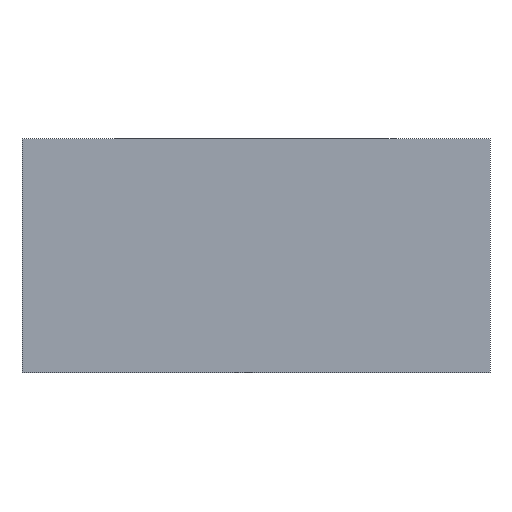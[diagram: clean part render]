
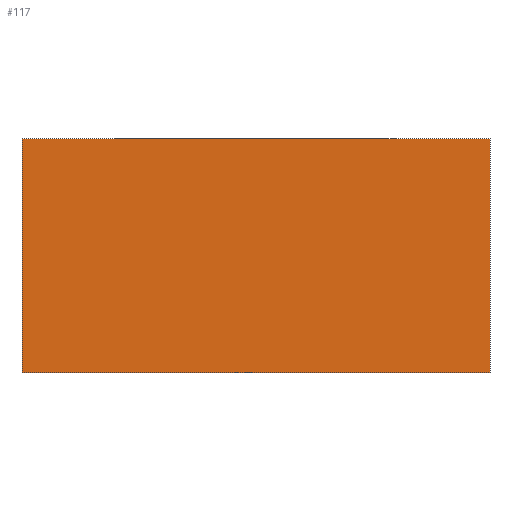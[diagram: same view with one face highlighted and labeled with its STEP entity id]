
A CAD part, front view. The second image highlights one B-rep face of the part: STEP entity #117.
In plain terms, the highlighted planar face has unit normal (0, -1, 0).
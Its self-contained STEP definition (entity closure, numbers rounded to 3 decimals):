
#112=FACE_OUTER_BOUND('',#191,.T.);
#117=ADVANCED_FACE('',(#112),#132,.T.);
#132=PLANE('',#326);
#137=LINE('',#424,#149);
#141=LINE('',#433,#153);
#142=LINE('',#435,#154);
#143=LINE('',#437,#155);
#149=VECTOR('',#357,1.);
#153=VECTOR('',#363,1.);
#154=VECTOR('',#364,1.);
#155=VECTOR('',#365,1.);
#191=EDGE_LOOP('',(#224,#225,#226,#227));
#224=ORIENTED_EDGE('',*,*,#292,.T.);
#225=ORIENTED_EDGE('',*,*,#288,.T.);
#226=ORIENTED_EDGE('',*,*,#293,.F.);
#227=ORIENTED_EDGE('',*,*,#294,.T.);
#268=VERTEX_POINT('',#425);
#269=VERTEX_POINT('',#426);
#272=VERTEX_POINT('',#434);
#273=VERTEX_POINT('',#436);
#288=EDGE_CURVE('',#268,#269,#137,.T.);
#292=EDGE_CURVE('',#272,#268,#141,.T.);
#293=EDGE_CURVE('',#273,#269,#142,.T.);
#294=EDGE_CURVE('',#273,#272,#143,.T.);
#326=AXIS2_PLACEMENT_3D('',#438,#366,#367);
#357=DIRECTION('',(-1.,0.,0.));
#363=DIRECTION('',(0.,0.,1.));
#364=DIRECTION('',(0.,0.,1.));
#365=DIRECTION('',(1.,0.,0.));
#366=DIRECTION('',(0.,-1.,0.));
#367=DIRECTION('',(0.,0.,-1.));
#424=CARTESIAN_POINT('',(5.,0.,5.));
#425=CARTESIAN_POINT('',(10.,0.,5.));
#426=CARTESIAN_POINT('',(0.,0.,5.));
#433=CARTESIAN_POINT('',(10.,0.,0.));
#434=CARTESIAN_POINT('',(10.,0.,0.));
#435=CARTESIAN_POINT('',(0.,0.,0.));
#436=CARTESIAN_POINT('',(0.,0.,0.));
#437=CARTESIAN_POINT('',(5.,0.,0.));
#438=CARTESIAN_POINT('',(5.,0.,0.));
